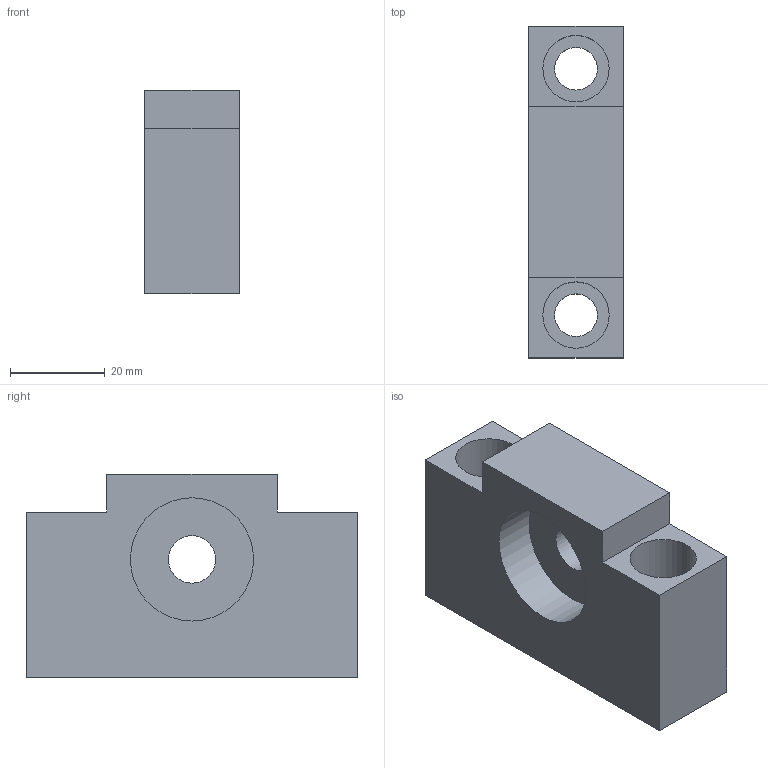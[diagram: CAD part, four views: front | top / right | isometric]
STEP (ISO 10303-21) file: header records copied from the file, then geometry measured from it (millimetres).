
FILE_DESCRIPTION(/* description */ (''),/* implementation_level */ '2;1');
FILE_NAME(/* name */ 'AF12-STP.stp',/* time_stamp */ '2019-11-18T10:53:00+08:00',/* author */ (''),/* organization */ (''),/* preprocessor_version */ 'ST-DEVELOPER v14',/* originating_system */ 'SIEMENS PLM Software NX 8.0',/* authorisation */ '');
FILE_SCHEMA (('AUTOMOTIVE_DESIGN { 1 0 10303 214 3 1 1 1 }'));
Length unit declared in the file: millimetre
Products named in the file (3): 7000; AF12-A; AF12
Assembly tree (2 placements, depth 2):
  AF12
    AF12-A
    7000
Bounding box: 20 x 70 x 43 mm (x, y, z)
Volume: 41320.3 mm3; surface area: 14447.6 mm2
Topology: 2 solids, 2 shells, 21 faces, 47 edges, 32 vertices
Faces by surface type: plane 14, cylinder 7
Full cylindrical faces by diameter (mm): 9 x2, 10 x1, 14 x2, 26 x2
Entity records: 622 total; most frequent: DIRECTION 100, CARTESIAN_POINT 92, ORIENTED_EDGE 76, EDGE_LOOP 38, EDGE_CURVE 38, AXIS2_PLACEMENT_3D 38, FACE_BOUND 33, VERTEX_POINT 30
